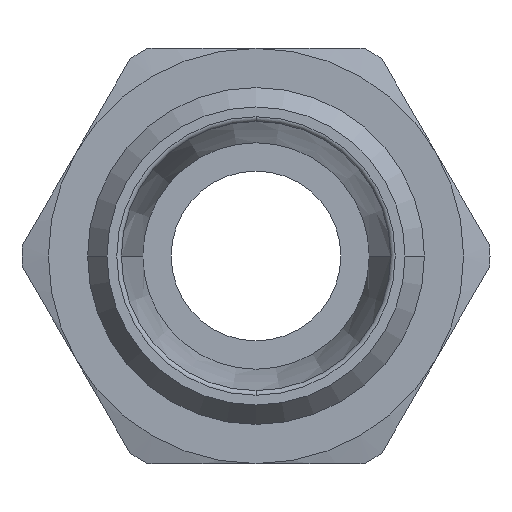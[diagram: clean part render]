
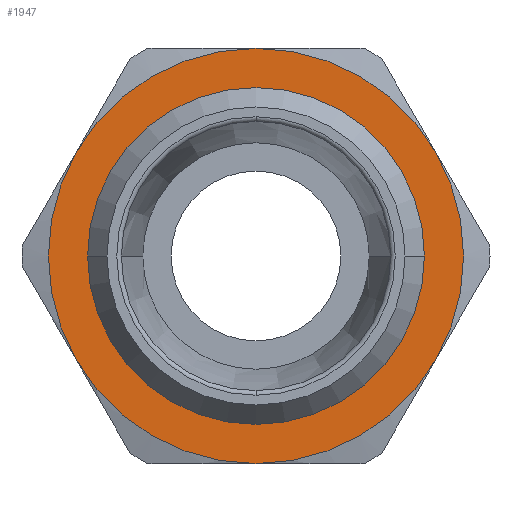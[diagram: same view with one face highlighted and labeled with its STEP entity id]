
A CAD part, left-side view. The second image highlights one B-rep face of the part: STEP entity #1947.
In plain terms, the highlighted planar face has unit normal (-1, 0, 0) as drawn and (0, 0, 1) by its records, which use the part's own axes.
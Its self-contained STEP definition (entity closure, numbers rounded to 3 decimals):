
#857=CARTESIAN_POINT('',(-8.8,0.,3.25));
#858=VERTEX_POINT('',#857);
#884=CARTESIAN_POINT('',(8.8,0.,3.25));
#885=VERTEX_POINT('',#884);
#893=CARTESIAN_POINT('',(0.,0.,3.25));
#894=DIRECTION('',(0.0,0.0,1.0));
#895=DIRECTION('',(-1.0,0.0,0.0));
#896=AXIS2_PLACEMENT_3D('',#893,#894,#895);
#897=CIRCLE('',#896,8.8);
#898=EDGE_CURVE('',#885,#858,#897,.T.);
#1827=CARTESIAN_POINT('',(0.,-8.8,3.25));
#1828=VERTEX_POINT('',#1827);
#1829=CARTESIAN_POINT('',(0.,0.,3.25));
#1830=DIRECTION('',(0.0,0.0,1.0));
#1831=DIRECTION('',(-1.0,0.0,0.0));
#1832=AXIS2_PLACEMENT_3D('',#1829,#1830,#1831);
#1833=CIRCLE('',#1832,8.8);
#1834=EDGE_CURVE('',#858,#1828,#1833,.T.);
#1836=CARTESIAN_POINT('',(0.,0.,3.25));
#1837=DIRECTION('',(0.0,0.0,1.0));
#1838=DIRECTION('',(-1.0,0.0,0.0));
#1839=AXIS2_PLACEMENT_3D('',#1836,#1837,#1838);
#1840=CIRCLE('',#1839,8.8);
#1841=EDGE_CURVE('',#1828,#885,#1840,.T.);
#1881=CARTESIAN_POINT('',(0.,0.,3.25));
#1882=DIRECTION('',(0.0,0.0,1.0));
#1883=DIRECTION('',(1.0,0.0,0.0));
#1884=AXIS2_PLACEMENT_3D('',#1881,#1882,#1883);
#1885=PLANE('',#1884);
#1886=CARTESIAN_POINT('',(5.5,-9.526,3.25));
#1887=VERTEX_POINT('',#1886);
#1888=CARTESIAN_POINT('',(11.,0.0,3.25));
#1889=VERTEX_POINT('',#1888);
#1890=CARTESIAN_POINT('',(0.,0.0,3.25));
#1891=DIRECTION('',(0.0,0.0,1.0));
#1892=DIRECTION('',(1.0,0.0,0.0));
#1893=AXIS2_PLACEMENT_3D('',#1890,#1891,#1892);
#1894=CIRCLE('',#1893,11.);
#1895=EDGE_CURVE('',#1887,#1889,#1894,.T.);
#1896=ORIENTED_EDGE('',*,*,#1895,.T.);
#1897=CARTESIAN_POINT('',(5.5,9.526,3.25));
#1898=VERTEX_POINT('',#1897);
#1899=CARTESIAN_POINT('',(0.,0.0,3.25));
#1900=DIRECTION('',(0.0,0.0,1.0));
#1901=DIRECTION('',(1.0,0.0,0.0));
#1902=AXIS2_PLACEMENT_3D('',#1899,#1900,#1901);
#1903=CIRCLE('',#1902,11.);
#1904=EDGE_CURVE('',#1889,#1898,#1903,.T.);
#1905=ORIENTED_EDGE('',*,*,#1904,.T.);
#1906=CARTESIAN_POINT('',(-5.5,9.526,3.25));
#1907=VERTEX_POINT('',#1906);
#1908=CARTESIAN_POINT('',(0.,0.0,3.25));
#1909=DIRECTION('',(0.0,0.0,1.0));
#1910=DIRECTION('',(1.0,0.0,0.0));
#1911=AXIS2_PLACEMENT_3D('',#1908,#1909,#1910);
#1912=CIRCLE('',#1911,11.);
#1913=EDGE_CURVE('',#1898,#1907,#1912,.T.);
#1914=ORIENTED_EDGE('',*,*,#1913,.T.);
#1915=CARTESIAN_POINT('',(-11.0,0.,3.25));
#1916=VERTEX_POINT('',#1915);
#1917=CARTESIAN_POINT('',(0.,0.0,3.25));
#1918=DIRECTION('',(0.0,0.0,1.0));
#1919=DIRECTION('',(1.0,0.0,0.0));
#1920=AXIS2_PLACEMENT_3D('',#1917,#1918,#1919);
#1921=CIRCLE('',#1920,11.);
#1922=EDGE_CURVE('',#1907,#1916,#1921,.T.);
#1923=ORIENTED_EDGE('',*,*,#1922,.T.);
#1924=CARTESIAN_POINT('',(-5.5,-9.526,3.25));
#1925=VERTEX_POINT('',#1924);
#1926=CARTESIAN_POINT('',(0.,0.0,3.25));
#1927=DIRECTION('',(0.0,0.0,1.0));
#1928=DIRECTION('',(1.0,0.0,0.0));
#1929=AXIS2_PLACEMENT_3D('',#1926,#1927,#1928);
#1930=CIRCLE('',#1929,11.);
#1931=EDGE_CURVE('',#1916,#1925,#1930,.T.);
#1932=ORIENTED_EDGE('',*,*,#1931,.T.);
#1933=CARTESIAN_POINT('',(0.,0.0,3.25));
#1934=DIRECTION('',(0.0,0.0,1.0));
#1935=DIRECTION('',(1.0,0.0,0.0));
#1936=AXIS2_PLACEMENT_3D('',#1933,#1934,#1935);
#1937=CIRCLE('',#1936,11.);
#1938=EDGE_CURVE('',#1925,#1887,#1937,.T.);
#1939=ORIENTED_EDGE('',*,*,#1938,.T.);
#1940=EDGE_LOOP('',(#1896,#1905,#1914,#1923,#1932,#1939));
#1941=FACE_OUTER_BOUND('',#1940,.T.);
#1942=ORIENTED_EDGE('',*,*,#1841,.F.);
#1943=ORIENTED_EDGE('',*,*,#1834,.F.);
#1944=ORIENTED_EDGE('',*,*,#898,.F.);
#1945=EDGE_LOOP('',(#1942,#1943,#1944));
#1946=FACE_BOUND('',#1945,.T.);
#1947=ADVANCED_FACE('',(#1941,#1946),#1885,.T.);
